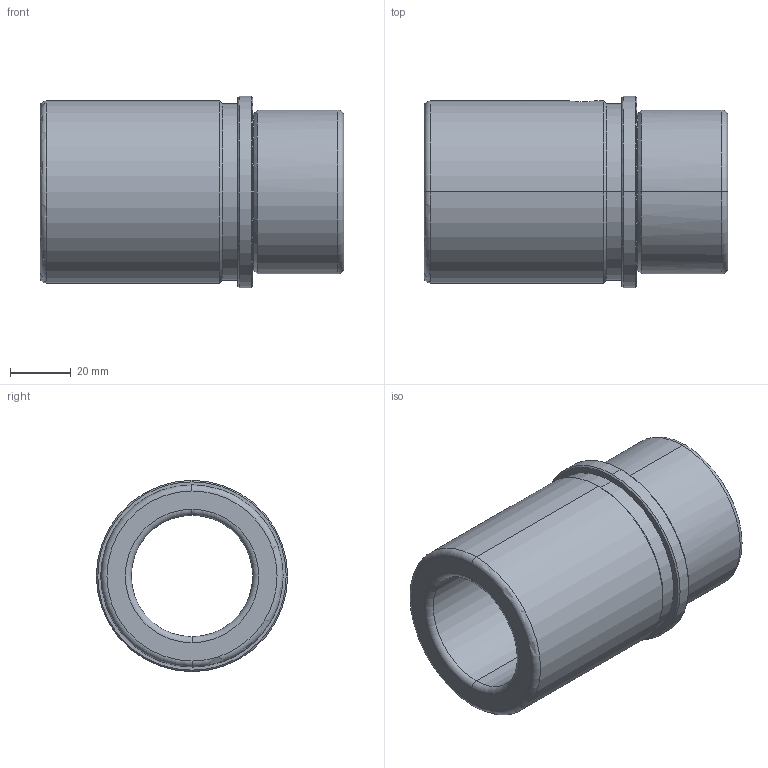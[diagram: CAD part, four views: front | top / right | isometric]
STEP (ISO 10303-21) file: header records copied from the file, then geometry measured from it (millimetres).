
FILE_DESCRIPTION(('CATIA V5 STEP Exchange'),'2;1');
FILE_NAME('C:\Users\Utente\Desktop\IO LAVORO\3D X SITO CF\X SITO\CF 655\CF 655 40 x 100.stp','2020-12-26T14:09:34+00:00',('none'),('none'),'CATIA Version 5 Release 20 GA (IN-10)','CATIA V5 STEP AP203','none');
FILE_SCHEMA(('CONFIG_CONTROL_DESIGN'));
Length unit declared in the file: millimetre
Products named in the file (1): CF 655 40 x 100
Bounding box: 100 x 63 x 63 mm (x, y, z)
Volume: 139789.7 mm3; surface area: 34826.8 mm2
Topology: 1 solids, 1 shells, 37 faces, 126 edges, 94 vertices
Faces by surface type: cylinder 14, cone 10, torus 8, plane 5
Entity records: 1669 total; most frequent: CARTESIAN_POINT 541, ORIENTED_EDGE 252, DIRECTION 178, EDGE_CURVE 126, AXIS2_PLACEMENT_3D 118, VERTEX_POINT 94, CIRCLE 80, EDGE_LOOP 44
